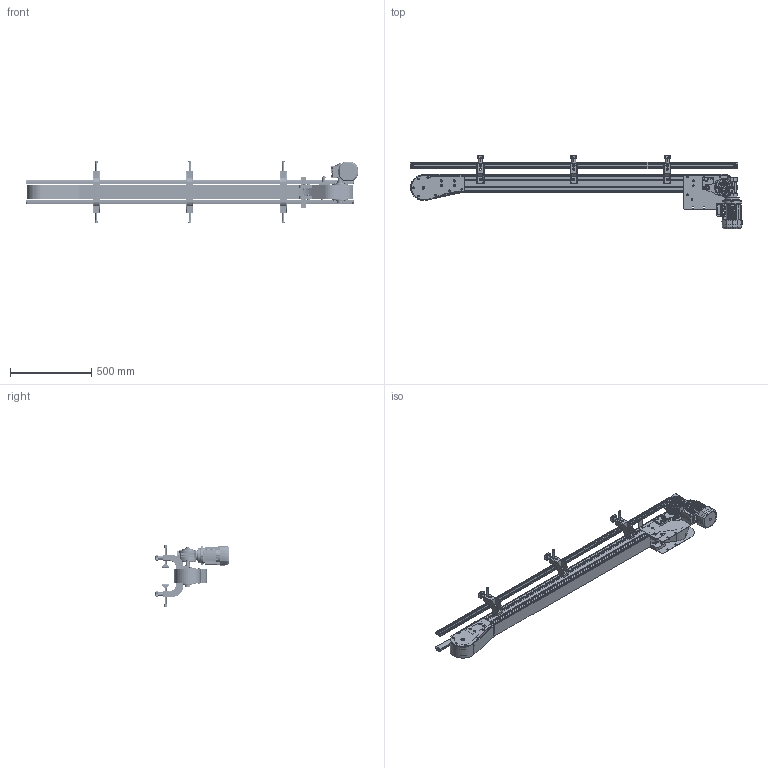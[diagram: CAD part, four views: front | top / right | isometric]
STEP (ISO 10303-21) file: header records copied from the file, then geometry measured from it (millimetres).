
FILE_DESCRIPTION (( 'STEP AP203' ), '1' );
FILE_NAME ('NASTRO_CATENA.step', '2026-04-22T09:26:21', ( 'Utente Windows' ), ( '' ), 'SwSTEP 2.0', 'SolidWorks 2024', '' );
FILE_SCHEMA (( 'CONFIG_CONTROL_DESIGN' ));
Length unit declared in the file: millimetre
Products named in the file (53): 663151_NS880T12R25; 2000.325.204-4; PU008.012.025N; CH05P_DX; 2000.325.003; RONDELLE FASCIA LARGA UNI 6593 INOX_8.4x24 UNI 6593 INOX; 2000.001.011; 2000.001.004-3; GRANI A PUNTA PIATTA UNI 5923_M8x20 UNI 5923; 2000.325.103; VITI TSEI UNI 5933 INOX_0410UNI5933A2; NASTRO_CATENA; VITI TCEI UNI 5931 INOX_M6x30 UNI 5931 INOX; PROFILO POLIZENE_209<A macchina>; 2000.001.201-3; 2000.001.002; 084.711.005; 084.808.004; 0630UNI8735; SUPPORTO_SPONDA; SBPF205; 2000.325.001_Default<Lavorato>; 2000.001.212; GRANI A PUNTA CONICA UNI 5927_M8x16 UNI 5927; CATENA_DIRITTO; 2000.001.006-2; VITI TE UNI 5739 INOX_M8x16 UNI 5739 INOX; CHIAVETTE_A 8x7x50 UNI 6604-69; 084.802.027; VITI TE UNI 5739 INOX_M8x20 UNI 5739 INOX; 2000.001.001; 084.712.002; K325_1_Default<A macchina>; 2000.325.205-4; 2000.325.104-2; VITI TE UNI 5739_M8x20 UNI 5739; 2000.325.201-1S; 2000.001.213; CHIAVETTE_A 8x7x70 UNI 6604-69; K325_R_P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
Assembly tree (110 placements, depth 4):
  NASTRO_CATENA
    K325_1_Default<A macchina>
    K325_DIR_49_P_DX_MOTORE A DESTRA
      084.802.027
      2000.001.006-2  x2
      2000.325.003  x2
      2000.325.103
      2000.001.001  x2
      2000.325.001_Default<Lavorato>  x2
      084.808.004
      2000.325.104-2
      2000.001.004-3
      2000.001.011
      2000.325.105-2
      2000.001.003-3
      CHIAVETTE_A 8x7x70 UNI 6604-69
      CHIAVETTE_A 8x7x50 UNI 6604-69
      SBPF205  x2
      663151_NS880T12R25
      VITI TSEI UNI 5933 INOX_0410UNI5933A2  x8
      GRANI A PUNTA CONICA UNI 5927_M8x16 UNI 5927  x8
      VITI TCEI UNI 5931 INOX_M6x30 UNI 5931 INOX  x2
      VITI TE UNI 5739 INOX_M8x20 UNI 5739 INOX
      RONDELLE FASCIA LARGA UNI 6593 INOX_8.4x32 UNI 6593 INOX
      GRANI A PUNTA PIATTA UNI 5923_M8x20 UNI 5923
      RONDELLE FASCIA LARGA UNI 6593 INOX_8.4x24 UNI 6593 INOX
      VITI TE UNI 5739 INOX_M8x16 UNI 5739 INOX  x7
      DADI ESAGONALI AUTOBLOCCANTI UNI 7473 INOX_M6 UNI 7473 INOX  x4
      084.312.006  x6
      PU008.012.025N
      VITI TE UNI 5739 INOX_M6x30 UNI 5739 INOX  x4
      VITI TE UNI 5739 INOX_M6x20 UNI 5739 INOX  x6
    K325_R_P
      2000.001.201-3
      2000.001.202-3
      PROFILO POLIZENE_209<A macchina>  x2
      2000.325.201-1S
      2000.325.205-4
      2000.325.204-4
      2000.001.002  x2
      2000.001.001  x2
      2000.325.001_Default<Lavorato>  x2
      2000.001.213
        2000.001.212  x2
        0630UNI8735  x2
    SPONDA_DIRITTO_Default<A macchina>
    SUPPORTO_SPONDA  x6
      084.711.004
      084.711.002
      084.711.005
      VITI TE UNI 5739_M8x20 UNI 5739
    084.712.002  x4
    CH05P_DX
    CATENA_DIRITTO
    2000.882.750
Bounding box: 2043.3 x 452.8 x 381.12 mm (x, y, z)
Volume: 13855837.6 mm3; surface area: 5338600.2 mm2
Topology: 123 solids, 132 shells, 5929 faces, 14899 edges, 9202 vertices
Faces by surface type: plane 2323, cylinder 2222, cone 663, bspline 412, torus 273, sphere 36
Entity records: 136951 total; most frequent: CARTESIAN_POINT 43184, DIRECTION 18324, ORIENTED_EDGE 18108, EDGE_CURVE 9065, AXIS2_PLACEMENT_3D 6923, VERTEX_POINT 5638, VECTOR 4478, LINE 4478
